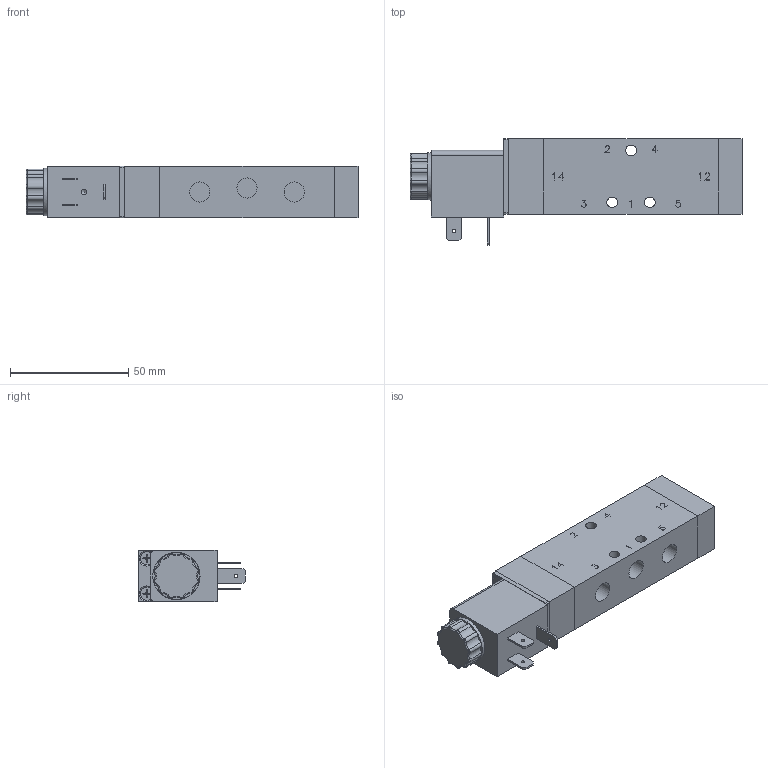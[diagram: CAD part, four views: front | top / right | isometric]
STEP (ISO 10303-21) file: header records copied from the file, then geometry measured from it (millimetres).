
FILE_DESCRIPTION (( 'STEP AP214' ), '1' );
FILE_NAME ('KMX-09-511-HN-F42_Airtec.step', '2020-06-19T14:33:00', ( '' ), ( '' ), 'SwSTEP 2.0', 'SolidWorks 2010', '' );
FILE_SCHEMA (( 'AUTOMOTIVE_DESIGN' ));
Length unit declared in the file: millimetre
Products named in the file (3): Volumenkörper4-1; Volumenkörper1; KMX-09-511-HN-F42_Airtec
Assembly tree (2 placements, depth 2):
  KMX-09-511-HN-F42_Airtec
    Volumenkörper1
    Volumenkörper4-1
Bounding box: 140.6 x 45.2 x 22 mm (x, y, z)
Volume: 88754.4 mm3; surface area: 22924.5 mm2
Topology: 2 solids, 2 shells, 786 faces, 2079 edges, 1355 vertices
Faces by surface type: plane 571, cylinder 93, cone 55, torus 53, bspline 14
Full cylindrical faces by diameter (mm): 1.5 x3, 2.459 x1, 2.693 x4, 3.4 x4, 4.5 x3, 5.5 x8, 6 x4, 8 x1, 8.15 x1, 8.566 x5, 9.04 x2, 15 x1, 16.6 x1, 20 x1
Entity records: 29273 total; most frequent: CARTESIAN_POINT 6294, ORIENTED_EDGE 3984, DIRECTION 3713, EDGE_CURVE 1992, VECTOR 1493, LINE 1493, VERTEX_POINT 1335, AXIS2_PLACEMENT_3D 1110
